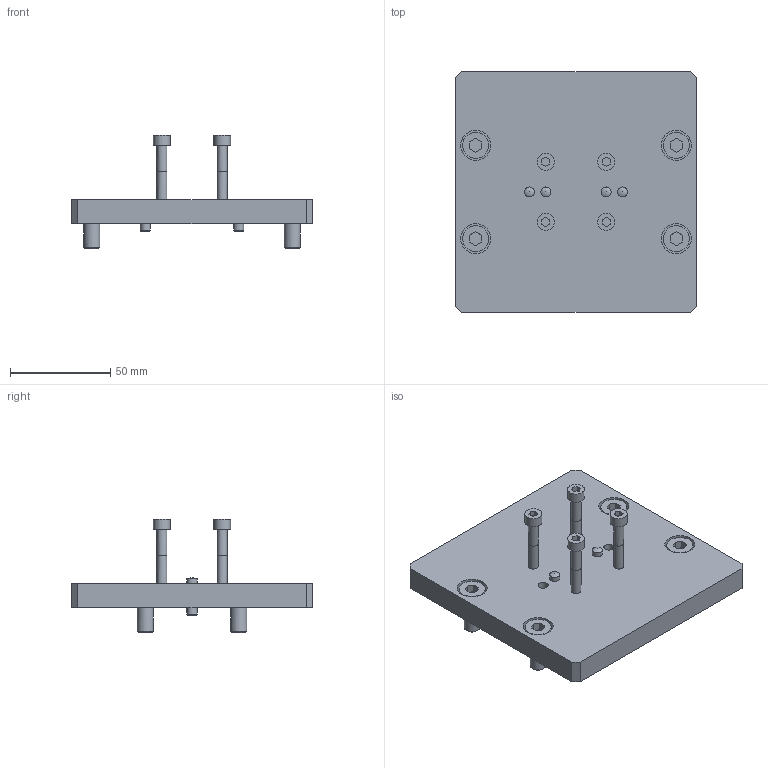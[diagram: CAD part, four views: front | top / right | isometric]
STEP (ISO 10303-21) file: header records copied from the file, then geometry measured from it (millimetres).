
FILE_DESCRIPTION( ( 'STEP AP214' ), '1' );
FILE_NAME( 'U:/Etudes/Top Solid/BIBLIO 3D AVM/STEP/N_ELECTRIQUE/Linéaires/Accessoires/8319113.step', '2006-07-05T09:02:56', ( ' ' ), ( ' ' ), 'XStep 1.0', ' ', ' ' );
FILE_SCHEMA( ( 'automotive_design' ) );
Length unit declared in the file: metre
Products named in the file (1): 1
Bounding box: 120 x 120 x 56.5 mm (x, y, z)
Volume: 175616.3 mm3; surface area: 42909.3 mm2
Topology: 1 solids, 3 shells, 158 faces, 346 edges, 230 vertices
Faces by surface type: plane 98, cylinder 44, cone 12, bspline 4
Full cylindrical faces by diameter (mm): 4.134 x4, 5 x16, 8 x8, 8.5 x4, 9 x4, 13 x4, 15 x4
Entity records: 5424 total; most frequent: CARTESIAN_POINT 999, DIRECTION 646, ORIENTED_EDGE 520, EDGE_CURVE 260, EDGE_LOOP 258, AXIS2_PLACEMENT_3D 239, VERTEX_POINT 208, FACE_OUTER_BOUND 202
